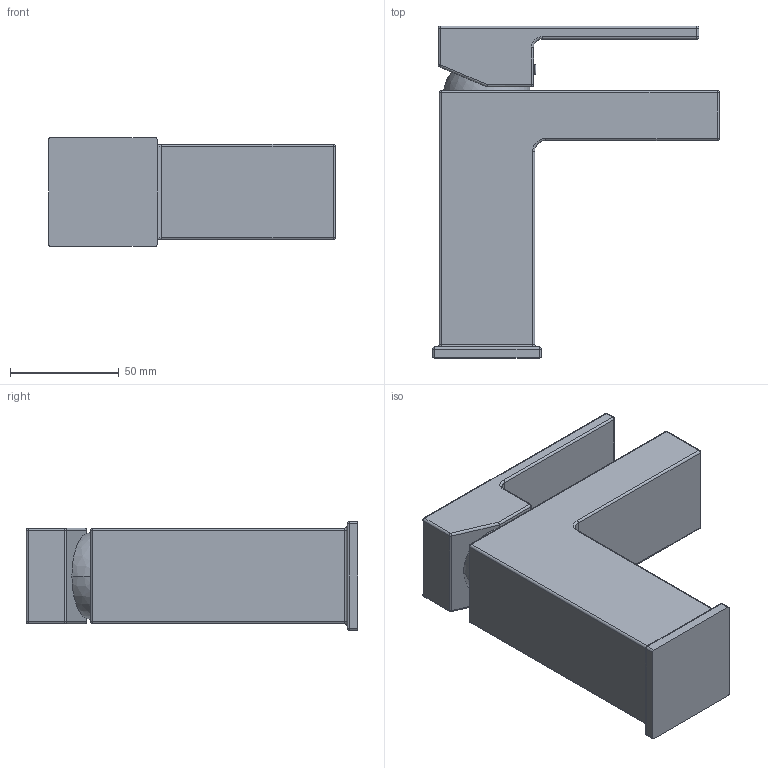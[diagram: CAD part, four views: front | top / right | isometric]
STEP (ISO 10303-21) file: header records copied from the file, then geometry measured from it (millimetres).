
FILE_DESCRIPTION (( 'STEP AP203' ), '1' );
FILE_NAME ('Paini Dax 84CR211WFRKM.STEP', '2020-03-30T20:40:35', ( '' ), ( '' ), 'SwSTEP 2.0', 'SolidWorks 2018', '' );
FILE_SCHEMA (( 'CONFIG_CONTROL_DESIGN' ));
Length unit declared in the file: millimetre
Products named in the file (1): Paini Dax 84CR211WFRKM
Bounding box: 132 x 152.72 x 50 mm (x, y, z)
Volume: 357530.6 mm3; surface area: 53433.4 mm2
Topology: 1 solids, 2 shells, 138 faces, 311 edges, 158 vertices
Faces by surface type: cylinder 62, plane 30, sphere 28, torus 16, bspline 2
Entity records: 3742 total; most frequent: DIRECTION 713, CARTESIAN_POINT 662, ORIENTED_EDGE 578, AXIS2_PLACEMENT_3D 293, EDGE_CURVE 289, VERTEX_POINT 158, CIRCLE 156, EDGE_LOOP 141
